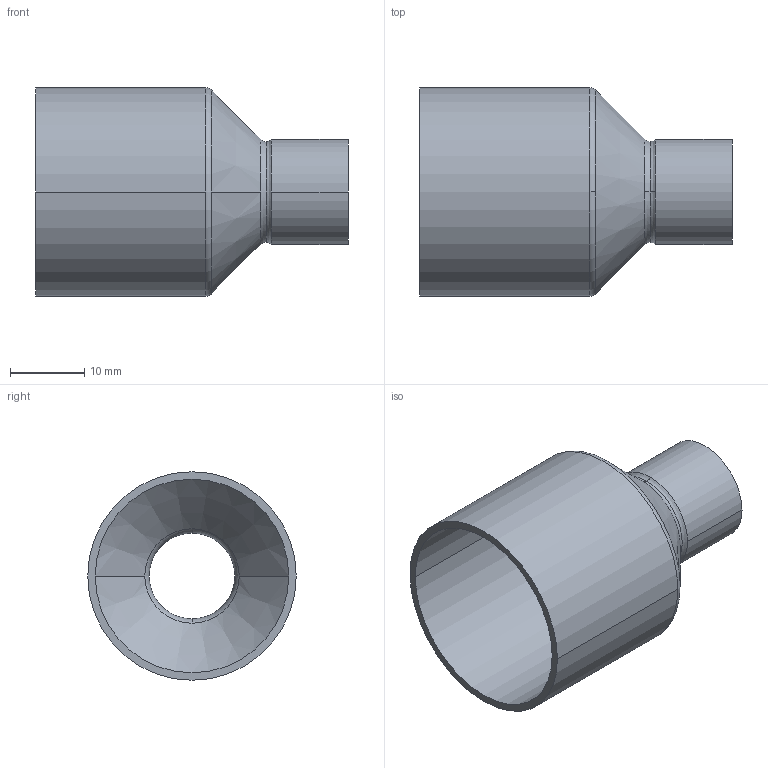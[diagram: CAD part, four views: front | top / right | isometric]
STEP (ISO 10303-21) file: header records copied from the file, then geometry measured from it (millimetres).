
FILE_DESCRIPTION((''),'2;1');
FILE_NAME('G:\Technics\CAD\Bauteile\Serie 15243\152432812.stp','2005-10-21T12:49:38',('boden'),(''),'Autodesk Inventor 8','Autodesk Inventor 8','');
FILE_SCHEMA(('AUTOMOTIVE_DESIGN { 1 0 10303 214 1 1 1 1 }'));
Length unit declared in the file: millimetre
Products named in the file (1): 152432812
Bounding box: 42 x 28 x 28 mm (x, y, z)
Volume: 3070.7 mm3; surface area: 6267.7 mm2
Topology: 1 solids, 1 shells, 24 faces, 60 edges, 38 vertices
Faces by surface type: cylinder 8, torus 6, bspline 4, cone 4, plane 2
Entity records: 931 total; most frequent: CARTESIAN_POINT 299, DIRECTION 150, ORIENTED_EDGE 120, AXIS2_PLACEMENT_3D 69, EDGE_CURVE 60, CIRCLE 48, VERTEX_POINT 38, EDGE_LOOP 26
